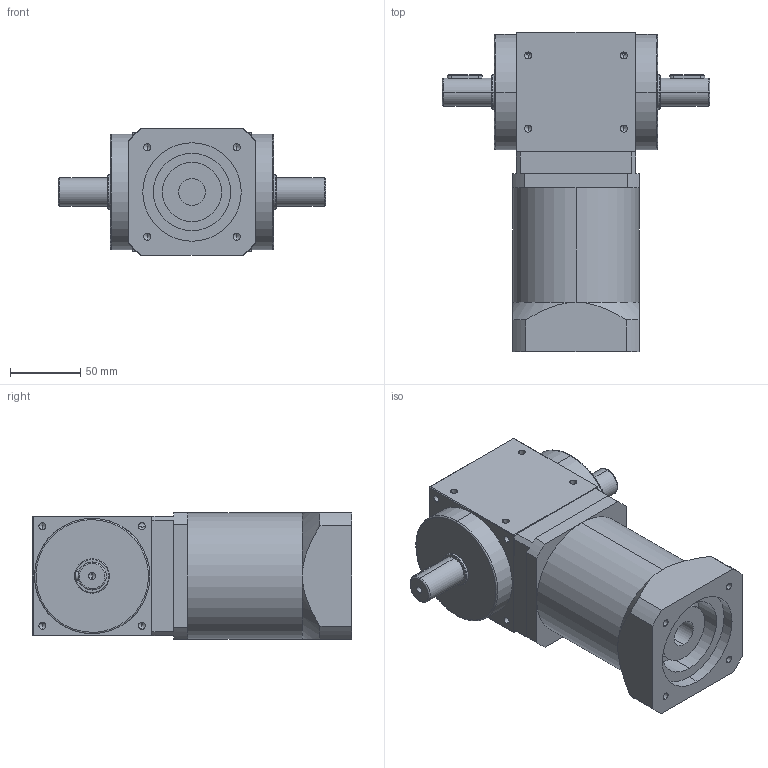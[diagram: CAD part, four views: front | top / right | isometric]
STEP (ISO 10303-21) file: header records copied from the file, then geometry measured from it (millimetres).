
FILE_DESCRIPTION (( 'STEP AP214' ), '1' );
FILE_NAME ('RXW085A-L2-2P-750W.STEP', '2020-12-05T02:43:28', ( '微软用户' ), ( '微软中国' ), 'SwSTEP 2.0', 'SolidWorks 2014', '' );
FILE_SCHEMA (( 'AUTOMOTIVE_DESIGN' ));
Length unit declared in the file: millimetre
Products named in the file (2): RXW085A-L2-2P-750W
Bounding box: 190 x 227 x 90 mm (x, y, z)
Volume: 1708998.8 mm3; surface area: 117831.9 mm2
Topology: 1 solids, 2 shells, 243 faces, 569 edges, 323 vertices
Faces by surface type: cylinder 90, plane 76, cone 69, bspline 8
Entity records: 9906 total; most frequent: CARTESIAN_POINT 1802, DIRECTION 1184, ORIENTED_EDGE 1062, EDGE_CURVE 531, AXIS2_PLACEMENT_3D 461, VERTEX_POINT 323, EDGE_LOOP 282, LINE 262
